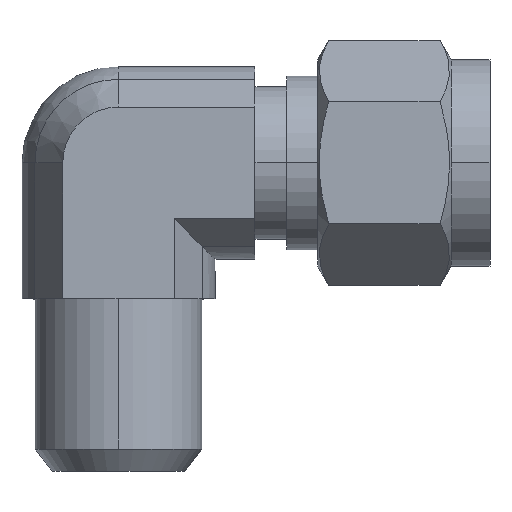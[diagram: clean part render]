
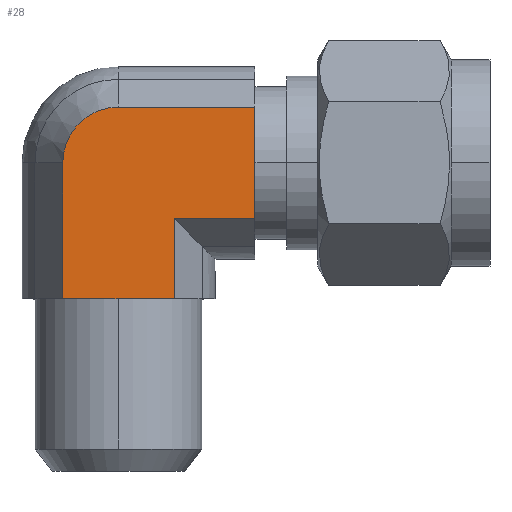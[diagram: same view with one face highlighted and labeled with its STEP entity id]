
A CAD part, top view. The second image highlights one B-rep face of the part: STEP entity #28.
In plain terms, the highlighted planar face has unit normal (0, 0, 1).
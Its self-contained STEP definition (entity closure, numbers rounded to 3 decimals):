
#7 = ORIENTED_EDGE ( 'NONE', *, *, #181, .T. ) ;
#28 = ADVANCED_FACE ( 'NONE', ( #674 ), #673, .F. ) ;
#29 = ORIENTED_EDGE ( 'NONE', *, *, #30, .T. ) ;
#30 = EDGE_CURVE ( 'NONE', #179, #31, #668, .T. ) ;
#31 = VERTEX_POINT ( 'NONE', #664 ) ;
#34 = ORIENTED_EDGE ( 'NONE', *, *, #35, .F. ) ;
#35 = EDGE_CURVE ( 'NONE', #347, #31, #659, .T. ) ;
#36 = ORIENTED_EDGE ( 'NONE', *, *, #346, .F. ) ;
#37 = ORIENTED_EDGE ( 'NONE', *, *, #110, .T. ) ;
#38 = ORIENTED_EDGE ( 'NONE', *, *, #39, .F. ) ;
#39 = EDGE_CURVE ( 'NONE', #40, #108, #655, .T. ) ;
#40 = VERTEX_POINT ( 'NONE', #650 ) ;
#41 = ORIENTED_EDGE ( 'NONE', *, *, #42, .F. ) ;
#42 = EDGE_CURVE ( 'NONE', #182, #40, #649, .T. ) ;
#81 = EDGE_LOOP ( 'NONE', ( #29, #34, #36, #37, #38, #41, #7 ) ) ;
#108 = VERTEX_POINT ( 'NONE', #839 ) ;
#110 = EDGE_CURVE ( 'NONE', #344, #108, #831, .T. ) ;
#179 = VERTEX_POINT ( 'NONE', #791 ) ;
#181 = EDGE_CURVE ( 'NONE', #182, #179, #790, .T. ) ;
#182 = VERTEX_POINT ( 'NONE', #736 ) ;
#344 = VERTEX_POINT ( 'NONE', #1298 ) ;
#346 = EDGE_CURVE ( 'NONE', #344, #347, #1297, .T. ) ;
#347 = VERTEX_POINT ( 'NONE', #1293 ) ;
#646 = DIRECTION ( 'NONE',  ( 0., 1., 0. ) ) ;
#647 = VECTOR ( 'NONE', #646, 1000. ) ;
#648 = CARTESIAN_POINT ( 'NONE',  ( -4.59, -11.2, 7.95 ) ) ;
#649 = LINE ( 'NONE', #648, #647 ) ;
#650 = CARTESIAN_POINT ( 'NONE',  ( -4.59, 0., 7.95 ) ) ;
#651 = DIRECTION ( 'NONE',  ( 0., 1., 0. ) ) ;
#652 = DIRECTION ( 'NONE',  ( 0., 0., -1. ) ) ;
#653 = CARTESIAN_POINT ( 'NONE',  ( 0., 0., 7.95 ) ) ;
#654 = AXIS2_PLACEMENT_3D ( 'NONE', #653, #652, #651 ) ;
#655 = CIRCLE ( 'NONE', #654, 4.59 ) ;
#656 = DIRECTION ( 'NONE',  ( -1., 0., 0. ) ) ;
#657 = VECTOR ( 'NONE', #656, 1000. ) ;
#658 = CARTESIAN_POINT ( 'NONE',  ( 11.24, -4.59, 7.95 ) ) ;
#659 = LINE ( 'NONE', #658, #657 ) ;
#664 = CARTESIAN_POINT ( 'NONE',  ( 4.59, -4.59, 7.95 ) ) ;
#665 = DIRECTION ( 'NONE',  ( 0., 1., 0. ) ) ;
#666 = VECTOR ( 'NONE', #665, 1000. ) ;
#667 = CARTESIAN_POINT ( 'NONE',  ( 4.59, -11.2, 7.95 ) ) ;
#668 = LINE ( 'NONE', #667, #666 ) ;
#669 = DIRECTION ( 'NONE',  ( 0., 1., 0. ) ) ;
#670 = DIRECTION ( 'NONE',  ( 0., 0., -1. ) ) ;
#671 = CARTESIAN_POINT ( 'NONE',  ( 11.24, 4.59, 7.95 ) ) ;
#672 = AXIS2_PLACEMENT_3D ( 'NONE', #671, #670, #669 ) ;
#673 = PLANE ( 'NONE',  #672 ) ;
#674 = FACE_OUTER_BOUND ( 'NONE', #81, .T. ) ;
#736 = CARTESIAN_POINT ( 'NONE',  ( -4.59, -11.2, 7.95 ) ) ;
#737 = DIRECTION ( 'NONE',  ( 1., 0., 0. ) ) ;
#738 = VECTOR ( 'NONE', #737, 1000. ) ;
#789 = CARTESIAN_POINT ( 'NONE',  ( -4.59, -11.2, 7.95 ) ) ;
#790 = LINE ( 'NONE', #789, #738 ) ;
#791 = CARTESIAN_POINT ( 'NONE',  ( 4.59, -11.2, 7.95 ) ) ;
#828 = DIRECTION ( 'NONE',  ( -1., 0., 0. ) ) ;
#829 = VECTOR ( 'NONE', #828, 1000. ) ;
#830 = CARTESIAN_POINT ( 'NONE',  ( 11.24, 4.59, 7.95 ) ) ;
#831 = LINE ( 'NONE', #830, #829 ) ;
#839 = CARTESIAN_POINT ( 'NONE',  ( 0., 4.59, 7.95 ) ) ;
#1293 = CARTESIAN_POINT ( 'NONE',  ( 11.24, -4.59, 7.95 ) ) ;
#1294 = DIRECTION ( 'NONE',  ( 0., -1., 0. ) ) ;
#1295 = VECTOR ( 'NONE', #1294, 1000. ) ;
#1296 = CARTESIAN_POINT ( 'NONE',  ( 11.24, 4.59, 7.95 ) ) ;
#1297 = LINE ( 'NONE', #1296, #1295 ) ;
#1298 = CARTESIAN_POINT ( 'NONE',  ( 11.24, 4.59, 7.95 ) ) ;
